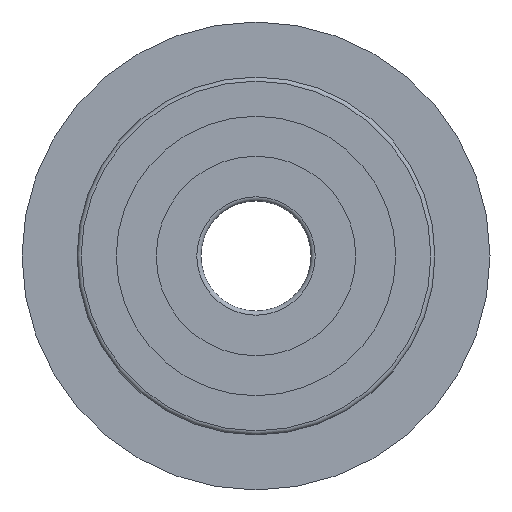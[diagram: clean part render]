
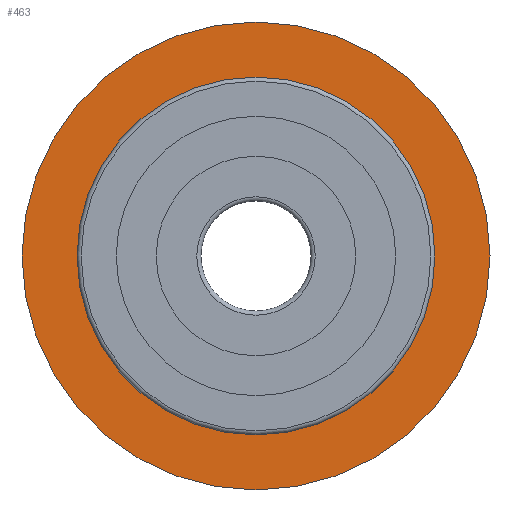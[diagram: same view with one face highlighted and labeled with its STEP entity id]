
A CAD part, left-side view. The second image highlights one B-rep face of the part: STEP entity #463.
In plain terms, the highlighted planar face has unit normal (-1, 0, 0).
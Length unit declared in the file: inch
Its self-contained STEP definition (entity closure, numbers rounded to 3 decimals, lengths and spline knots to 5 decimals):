
#436=CARTESIAN_POINT('',(112.91139,120.97152,0.));
#437=VERTEX_POINT('',#436);
#438=CARTESIAN_POINT('',(112.91139,112.47152,0.));
#439=DIRECTION('',(1.,0.,0.));
#440=DIRECTION('',(0.,1.,0.));
#441=AXIS2_PLACEMENT_3D('',#438,#439,#440);
#442=CIRCLE('',#441,8.5);
#443=EDGE_CURVE('',#437,#437,#442,.T.);
#444=ORIENTED_EDGE('',*,*,#443,.F.);
#445=EDGE_LOOP('',(#444));
#446=FACE_OUTER_BOUND('',#445,.T.);
#447=CARTESIAN_POINT('',(112.91139,118.97152,0.));
#448=VERTEX_POINT('',#447);
#449=CARTESIAN_POINT('',(112.91139,112.47152,0.));
#450=DIRECTION('',(1.,0.,0.));
#451=DIRECTION('',(0.,1.,0.));
#452=AXIS2_PLACEMENT_3D('',#449,#450,#451);
#453=CIRCLE('',#452,6.5);
#454=EDGE_CURVE('',#448,#448,#453,.T.);
#455=ORIENTED_EDGE('',*,*,#454,.T.);
#456=EDGE_LOOP('',(#455));
#457=FACE_BOUND('',#456,.T.);
#458=CARTESIAN_POINT('',(112.91139,119.97152,0.));
#459=DIRECTION('',(-1.,0.,0.));
#460=DIRECTION('',(0.,-1.,0.));
#461=AXIS2_PLACEMENT_3D('',#458,#459,#460);
#462=PLANE('',#461);
#463=ADVANCED_FACE('',(#446,#457),#462,.T.);
